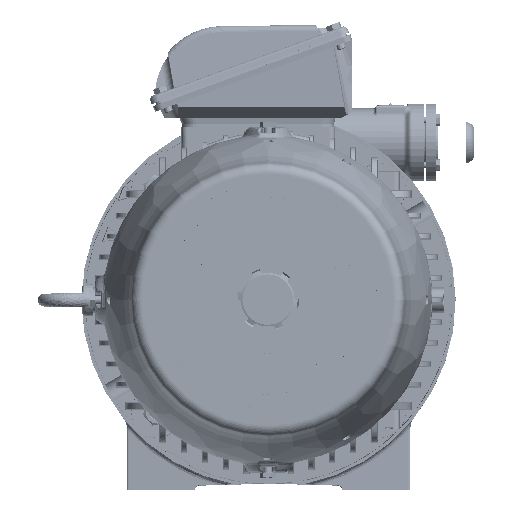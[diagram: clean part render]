
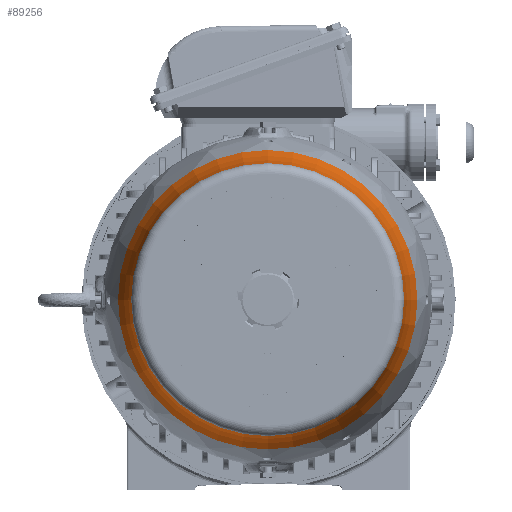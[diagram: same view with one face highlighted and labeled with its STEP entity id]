
A CAD part, top view. The second image highlights one B-rep face of the part: STEP entity #89256.
In plain terms, the highlighted toroidal (fillet/blend) face has major radius 308.616 mm and minor radius 180 mm.
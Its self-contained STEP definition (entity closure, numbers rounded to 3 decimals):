
#2088=TOROIDAL_SURFACE('',#95901,308.617,180.);
#16804=FACE_OUTER_BOUND('',#22136,.T.);
#22136=EDGE_LOOP('',(#61581,#61582,#61583,#61584,#61585,#61586));
#28035=CIRCLE('',#95882,142.487);
#28036=CIRCLE('',#95883,142.487);
#28054=CIRCLE('',#95902,180.);
#28055=CIRCLE('',#95903,129.927);
#28056=CIRCLE('',#95904,129.927);
#36855=VERTEX_POINT('',#139066);
#36856=VERTEX_POINT('',#139070);
#36890=VERTEX_POINT('',#139360);
#36891=VERTEX_POINT('',#139362);
#46244=EDGE_CURVE('',#36855,#36856,#28035,.T.);
#46245=EDGE_CURVE('',#36856,#36855,#28036,.T.);
#46280=EDGE_CURVE('',#36855,#36890,#28054,.T.);
#46281=EDGE_CURVE('',#36890,#36891,#28055,.T.);
#46282=EDGE_CURVE('',#36891,#36890,#28056,.T.);
#61581=ORIENTED_EDGE('',*,*,#46245,.F.);
#61582=ORIENTED_EDGE('',*,*,#46244,.F.);
#61583=ORIENTED_EDGE('',*,*,#46280,.T.);
#61584=ORIENTED_EDGE('',*,*,#46281,.T.);
#61585=ORIENTED_EDGE('',*,*,#46282,.T.);
#61586=ORIENTED_EDGE('',*,*,#46280,.F.);
#89256=ADVANCED_FACE('',(#16804),#2088,.F.);
#95882=AXIS2_PLACEMENT_3D('',#139071,#108251,#108252);
#95883=AXIS2_PLACEMENT_3D('',#139072,#108253,#108254);
#95901=AXIS2_PLACEMENT_3D('',#139359,#108289,#108290);
#95902=AXIS2_PLACEMENT_3D('',#139361,#108291,#108292);
#95903=AXIS2_PLACEMENT_3D('',#139363,#108293,#108294);
#95904=AXIS2_PLACEMENT_3D('',#139364,#108295,#108296);
#108251=DIRECTION('center_axis',(0.,0.,
-1.));
#108252=DIRECTION('ref_axis',(-1.,0.,0.));
#108253=DIRECTION('center_axis',(0.,0.,
-1.));
#108254=DIRECTION('ref_axis',(-1.,0.,0.));
#108289=DIRECTION('center_axis',(0.,0.,
-1.));
#108290=DIRECTION('ref_axis',(-1.,0.,0.));
#108291=DIRECTION('center_axis',(0.,1.,0.));
#108292=DIRECTION('ref_axis',(1.,0.,0.));
#108293=DIRECTION('center_axis',(0.,0.,
-1.));
#108294=DIRECTION('ref_axis',(-1.,0.,0.));
#108295=DIRECTION('center_axis',(0.,0.,
-1.));
#108296=DIRECTION('ref_axis',(-1.,0.,0.));
#139066=CARTESIAN_POINT('',(141.623,0.,569.399));
#139070=CARTESIAN_POINT('',(-143.35,0.,569.399));
#139071=CARTESIAN_POINT('Origin',(-0.863,0.,
569.399));
#139072=CARTESIAN_POINT('Origin',(-0.863,0.,
569.399));
#139359=CARTESIAN_POINT('Origin',(-0.863,0.,
638.687));
#139360=CARTESIAN_POINT('',(129.064,0.,617.005));
#139361=CARTESIAN_POINT('Origin',(307.753,0.,
638.687));
#139362=CARTESIAN_POINT('',(-130.791,0.,617.005));
#139363=CARTESIAN_POINT('Origin',(-0.863,0.,
617.005));
#139364=CARTESIAN_POINT('Origin',(-0.863,0.,
617.005));
